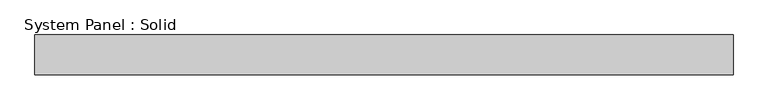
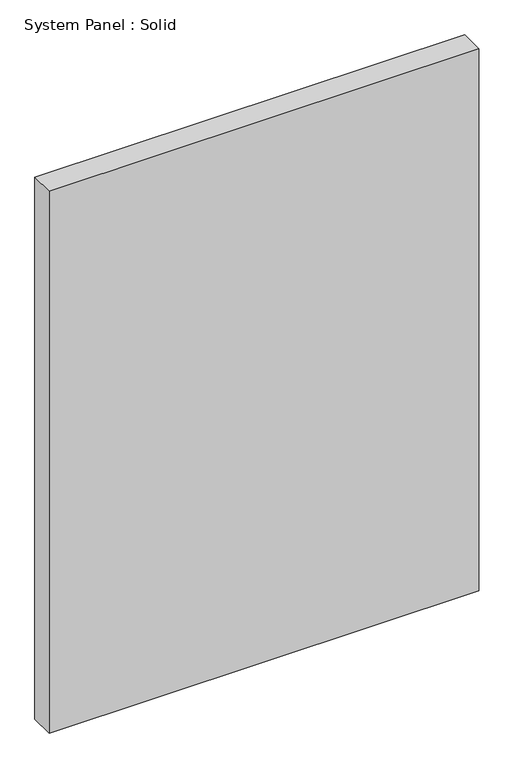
"""IFC4 building model written with IfcOpenShell, lengths in millimetres: plate geometry, System Panel : Solid."""

from ifc_helpers import new_model, si_unit, origin, origin_with_axes, place, context, project, spatial, polyline, outline, extrude, source, transform, mapped, element, save


def system_panel_solid_e1a07a15(model_context):
    return source(origin(), model_context, "Body", "SweptSolid", [
        extrude(outline(polyline([(557.2125, -19.05), (-557.2125, -19.05), (-557.2125, 44.45), (557.2125, 44.45), (557.2125, -19.05)])), origin_with_axes(), (0.0, 0.0, 1.0), 1485.9),
    ])


if __name__ == "__main__":
    model = new_model("IFC4")
    model_context = context("Model", 3, world=origin())
    ifc_project = project(units=[si_unit("LENGTHUNIT", "METRE", prefix="MILLI")], contexts=[model_context])
    site = spatial("IfcSite", under=ifc_project)
    building = spatial("IfcBuilding", under=site)
    placement = place(None, origin())
    system_panel_solid_shape = system_panel_solid_e1a07a15(model_context)
    element("IfcPlate", 1, ObjectType="System Panel : Solid", at=placement, inside=building, context=model_context, shape_type="MappedRepresentation", body=[
        mapped(system_panel_solid_shape, transform((0.0, 0.0, 0.0), x_axis=(1.0, 0.0, 0.0), y_axis=(0.0, 1.0, 0.0), z_axis=(0.0, 0.0, 1.0))),
    ])
    save(model, "model.ifc")
